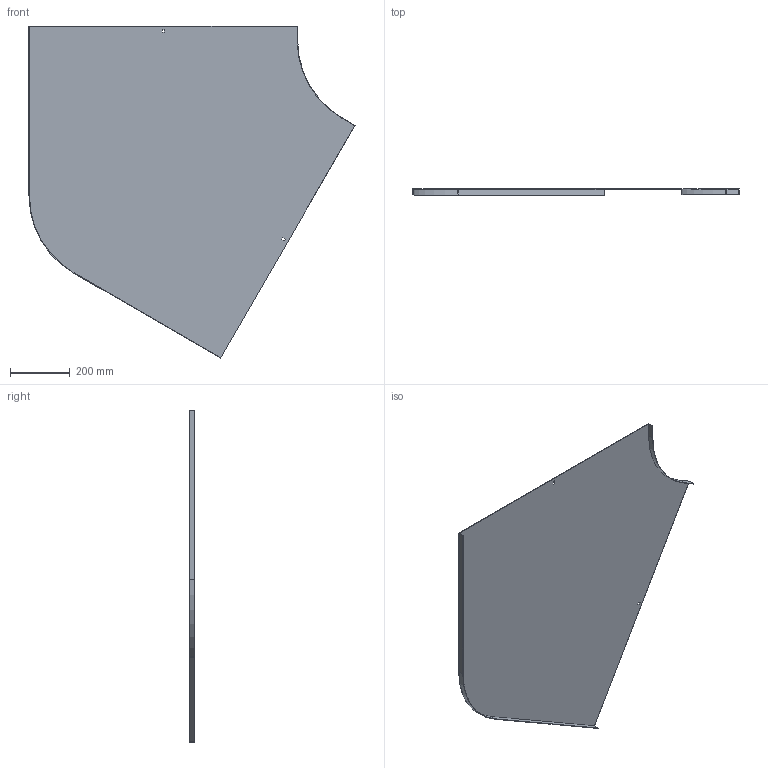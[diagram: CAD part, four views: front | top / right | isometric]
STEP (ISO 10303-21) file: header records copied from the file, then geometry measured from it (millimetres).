
FILE_DESCRIPTION (( 'STEP AP214' ), '1' );
FILE_NAME ('B2_13N3R900.step', '2025-02-21T10:53:04', ( '' ), ( '' ), 'SwSTEP 2.0', 'SolidWorks 2023', '' );
FILE_SCHEMA (( 'AUTOMOTIVE_DESIGN' ));
Length unit declared in the file: millimetre
Products named in the file (1): B2_13N3R900
Bounding box: 1095.55 x 20 x 1115.53 mm (x, y, z)
Volume: 1359985.3 mm3; surface area: 1819028 mm2
Topology: 1 solids, 1 shells, 26 faces, 72 edges, 48 vertices
Faces by surface type: plane 22, cylinder 4
Entity records: 855 total; most frequent: CARTESIAN_POINT 147, ORIENTED_EDGE 144, DIRECTION 134, EDGE_CURVE 72, LINE 64, VECTOR 64, VERTEX_POINT 48, AXIS2_PLACEMENT_3D 35
